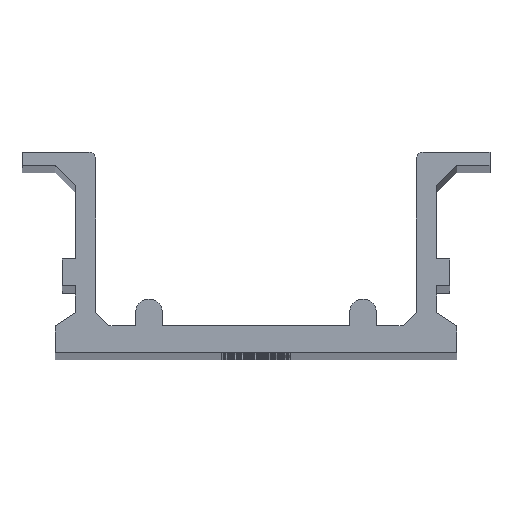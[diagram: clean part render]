
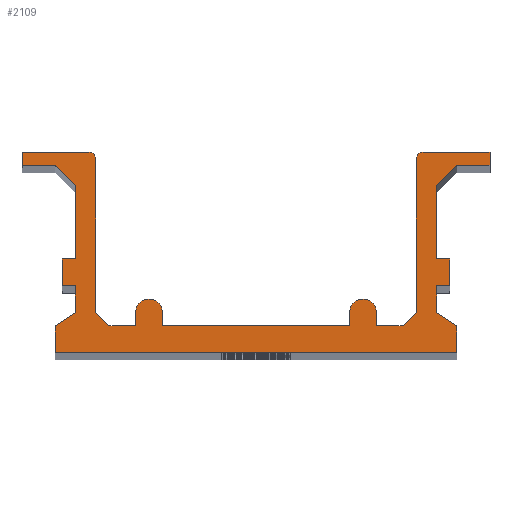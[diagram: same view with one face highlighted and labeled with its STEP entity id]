
A CAD part, top view. The second image highlights one B-rep face of the part: STEP entity #2109.
In plain terms, the highlighted planar face has unit normal (0, 0, 1).
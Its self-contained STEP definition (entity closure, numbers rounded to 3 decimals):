
#103=CIRCLE('',#2293,0.5);
#104=CIRCLE('',#2294,0.5);
#105=CIRCLE('',#2295,1.);
#106=CIRCLE('',#2296,1.);
#211=FACE_OUTER_BOUND('',#315,.T.);
#315=EDGE_LOOP('',(#1597,#1598,#1599,#1600,#1601,#1602,#1603,#1604,#1605,
#1606,#1607,#1608,#1609,#1610,#1611,#1612,#1613,#1614,#1615,#1616,#1617,
#1618,#1619,#1620,#1621,#1622,#1623,#1624,#1625,#1626,#1627,#1628,#1629,
#1630,#1631,#1632,#1633,#1634));
#507=LINE('',#3284,#741);
#508=LINE('',#3286,#742);
#509=LINE('',#3288,#743);
#510=LINE('',#3292,#744);
#511=LINE('',#3294,#745);
#512=LINE('',#3296,#746);
#513=LINE('',#3298,#747);
#514=LINE('',#3300,#748);
#515=LINE('',#3302,#749);
#516=LINE('',#3304,#750);
#517=LINE('',#3306,#751);
#518=LINE('',#3308,#752);
#519=LINE('',#3310,#753);
#520=LINE('',#3312,#754);
#521=LINE('',#3314,#755);
#522=LINE('',#3316,#756);
#523=LINE('',#3318,#757);
#524=LINE('',#3320,#758);
#525=LINE('',#3322,#759);
#526=LINE('',#3324,#760);
#527=LINE('',#3326,#761);
#528=LINE('',#3328,#762);
#529=LINE('',#3330,#763);
#530=LINE('',#3332,#764);
#531=LINE('',#3334,#765);
#532=LINE('',#3336,#766);
#533=LINE('',#3340,#767);
#534=LINE('',#3342,#768);
#535=LINE('',#3344,#769);
#536=LINE('',#3346,#770);
#537=LINE('',#3350,#771);
#538=LINE('',#3352,#772);
#539=LINE('',#3354,#773);
#540=LINE('',#3357,#774);
#741=VECTOR('',#2696,10.);
#742=VECTOR('',#2697,10.);
#743=VECTOR('',#2698,10.);
#744=VECTOR('',#2701,10.);
#745=VECTOR('',#2702,10.);
#746=VECTOR('',#2703,10.);
#747=VECTOR('',#2704,10.);
#748=VECTOR('',#2705,10.);
#749=VECTOR('',#2706,10.);
#750=VECTOR('',#2707,10.);
#751=VECTOR('',#2708,10.);
#752=VECTOR('',#2709,10.);
#753=VECTOR('',#2710,10.);
#754=VECTOR('',#2711,10.);
#755=VECTOR('',#2712,10.);
#756=VECTOR('',#2713,10.);
#757=VECTOR('',#2714,10.);
#758=VECTOR('',#2715,10.);
#759=VECTOR('',#2716,10.);
#760=VECTOR('',#2717,10.);
#761=VECTOR('',#2718,10.);
#762=VECTOR('',#2719,10.);
#763=VECTOR('',#2720,10.);
#764=VECTOR('',#2721,10.);
#765=VECTOR('',#2722,10.);
#766=VECTOR('',#2723,10.);
#767=VECTOR('',#2726,10.);
#768=VECTOR('',#2727,10.);
#769=VECTOR('',#2728,10.);
#770=VECTOR('',#2729,10.);
#771=VECTOR('',#2732,10.);
#772=VECTOR('',#2733,10.);
#773=VECTOR('',#2734,10.);
#774=VECTOR('',#2737,10.);
#975=VERTEX_POINT('',#3282);
#976=VERTEX_POINT('',#3283);
#977=VERTEX_POINT('',#3285);
#978=VERTEX_POINT('',#3287);
#979=VERTEX_POINT('',#3289);
#980=VERTEX_POINT('',#3291);
#981=VERTEX_POINT('',#3293);
#982=VERTEX_POINT('',#3295);
#983=VERTEX_POINT('',#3297);
#984=VERTEX_POINT('',#3299);
#985=VERTEX_POINT('',#3301);
#986=VERTEX_POINT('',#3303);
#987=VERTEX_POINT('',#3305);
#988=VERTEX_POINT('',#3307);
#989=VERTEX_POINT('',#3309);
#990=VERTEX_POINT('',#3311);
#991=VERTEX_POINT('',#3313);
#992=VERTEX_POINT('',#3315);
#993=VERTEX_POINT('',#3317);
#994=VERTEX_POINT('',#3319);
#995=VERTEX_POINT('',#3321);
#996=VERTEX_POINT('',#3323);
#997=VERTEX_POINT('',#3325);
#998=VERTEX_POINT('',#3327);
#999=VERTEX_POINT('',#3329);
#1000=VERTEX_POINT('',#3331);
#1001=VERTEX_POINT('',#3333);
#1002=VERTEX_POINT('',#3335);
#1003=VERTEX_POINT('',#3337);
#1004=VERTEX_POINT('',#3339);
#1005=VERTEX_POINT('',#3341);
#1006=VERTEX_POINT('',#3343);
#1007=VERTEX_POINT('',#3345);
#1008=VERTEX_POINT('',#3347);
#1009=VERTEX_POINT('',#3349);
#1010=VERTEX_POINT('',#3351);
#1011=VERTEX_POINT('',#3353);
#1012=VERTEX_POINT('',#3355);
#1235=EDGE_CURVE('',#975,#976,#507,.T.);
#1236=EDGE_CURVE('',#976,#977,#508,.T.);
#1237=EDGE_CURVE('',#977,#978,#509,.T.);
#1238=EDGE_CURVE('',#978,#979,#103,.T.);
#1239=EDGE_CURVE('',#979,#980,#510,.T.);
#1240=EDGE_CURVE('',#980,#981,#511,.T.);
#1241=EDGE_CURVE('',#981,#982,#512,.T.);
#1242=EDGE_CURVE('',#982,#983,#513,.T.);
#1243=EDGE_CURVE('',#983,#984,#514,.T.);
#1244=EDGE_CURVE('',#984,#985,#515,.T.);
#1245=EDGE_CURVE('',#985,#986,#516,.T.);
#1246=EDGE_CURVE('',#986,#987,#517,.T.);
#1247=EDGE_CURVE('',#987,#988,#518,.T.);
#1248=EDGE_CURVE('',#988,#989,#519,.T.);
#1249=EDGE_CURVE('',#989,#990,#520,.T.);
#1250=EDGE_CURVE('',#990,#991,#521,.T.);
#1251=EDGE_CURVE('',#991,#992,#522,.T.);
#1252=EDGE_CURVE('',#992,#993,#523,.T.);
#1253=EDGE_CURVE('',#993,#994,#524,.T.);
#1254=EDGE_CURVE('',#994,#995,#525,.T.);
#1255=EDGE_CURVE('',#995,#996,#526,.T.);
#1256=EDGE_CURVE('',#996,#997,#527,.T.);
#1257=EDGE_CURVE('',#997,#998,#528,.T.);
#1258=EDGE_CURVE('',#998,#999,#529,.T.);
#1259=EDGE_CURVE('',#999,#1000,#530,.T.);
#1260=EDGE_CURVE('',#1000,#1001,#531,.T.);
#1261=EDGE_CURVE('',#1001,#1002,#532,.T.);
#1262=EDGE_CURVE('',#1002,#1003,#104,.T.);
#1263=EDGE_CURVE('',#1003,#1004,#533,.T.);
#1264=EDGE_CURVE('',#1004,#1005,#534,.T.);
#1265=EDGE_CURVE('',#1005,#1006,#535,.T.);
#1266=EDGE_CURVE('',#1006,#1007,#536,.T.);
#1267=EDGE_CURVE('',#1007,#1008,#105,.T.);
#1268=EDGE_CURVE('',#1008,#1009,#537,.T.);
#1269=EDGE_CURVE('',#1009,#1010,#538,.T.);
#1270=EDGE_CURVE('',#1010,#1011,#539,.T.);
#1271=EDGE_CURVE('',#1011,#1012,#106,.T.);
#1272=EDGE_CURVE('',#1012,#975,#540,.T.);
#1597=ORIENTED_EDGE('',*,*,#1235,.T.);
#1598=ORIENTED_EDGE('',*,*,#1236,.T.);
#1599=ORIENTED_EDGE('',*,*,#1237,.T.);
#1600=ORIENTED_EDGE('',*,*,#1238,.T.);
#1601=ORIENTED_EDGE('',*,*,#1239,.T.);
#1602=ORIENTED_EDGE('',*,*,#1240,.T.);
#1603=ORIENTED_EDGE('',*,*,#1241,.T.);
#1604=ORIENTED_EDGE('',*,*,#1242,.T.);
#1605=ORIENTED_EDGE('',*,*,#1243,.T.);
#1606=ORIENTED_EDGE('',*,*,#1244,.T.);
#1607=ORIENTED_EDGE('',*,*,#1245,.T.);
#1608=ORIENTED_EDGE('',*,*,#1246,.T.);
#1609=ORIENTED_EDGE('',*,*,#1247,.T.);
#1610=ORIENTED_EDGE('',*,*,#1248,.T.);
#1611=ORIENTED_EDGE('',*,*,#1249,.T.);
#1612=ORIENTED_EDGE('',*,*,#1250,.T.);
#1613=ORIENTED_EDGE('',*,*,#1251,.T.);
#1614=ORIENTED_EDGE('',*,*,#1252,.T.);
#1615=ORIENTED_EDGE('',*,*,#1253,.T.);
#1616=ORIENTED_EDGE('',*,*,#1254,.T.);
#1617=ORIENTED_EDGE('',*,*,#1255,.T.);
#1618=ORIENTED_EDGE('',*,*,#1256,.T.);
#1619=ORIENTED_EDGE('',*,*,#1257,.T.);
#1620=ORIENTED_EDGE('',*,*,#1258,.T.);
#1621=ORIENTED_EDGE('',*,*,#1259,.T.);
#1622=ORIENTED_EDGE('',*,*,#1260,.T.);
#1623=ORIENTED_EDGE('',*,*,#1261,.T.);
#1624=ORIENTED_EDGE('',*,*,#1262,.T.);
#1625=ORIENTED_EDGE('',*,*,#1263,.T.);
#1626=ORIENTED_EDGE('',*,*,#1264,.T.);
#1627=ORIENTED_EDGE('',*,*,#1265,.T.);
#1628=ORIENTED_EDGE('',*,*,#1266,.T.);
#1629=ORIENTED_EDGE('',*,*,#1267,.T.);
#1630=ORIENTED_EDGE('',*,*,#1268,.T.);
#1631=ORIENTED_EDGE('',*,*,#1269,.T.);
#1632=ORIENTED_EDGE('',*,*,#1270,.T.);
#1633=ORIENTED_EDGE('',*,*,#1271,.T.);
#1634=ORIENTED_EDGE('',*,*,#1272,.T.);
#2013=PLANE('',#2292);
#2109=ADVANCED_FACE('',(#211),#2013,.T.);
#2292=AXIS2_PLACEMENT_3D('',#3281,#2694,#2695);
#2293=AXIS2_PLACEMENT_3D('',#3290,#2699,#2700);
#2294=AXIS2_PLACEMENT_3D('',#3338,#2724,#2725);
#2295=AXIS2_PLACEMENT_3D('',#3348,#2730,#2731);
#2296=AXIS2_PLACEMENT_3D('',#3356,#2735,#2736);
#2694=DIRECTION('center_axis',(0.,0.,1.));
#2695=DIRECTION('ref_axis',(1.,0.,0.));
#2696=DIRECTION('',(-1.,0.,0.));
#2697=DIRECTION('',(-0.707,0.707,0.));
#2698=DIRECTION('',(0.,1.,0.));
#2699=DIRECTION('center_axis',(0.,0.,1.));
#2700=DIRECTION('ref_axis',(1.,0.,0.));
#2701=DIRECTION('',(-1.,0.,0.));
#2702=DIRECTION('',(0.,-1.,0.));
#2703=DIRECTION('',(1.,0.,0.));
#2704=DIRECTION('',(0.707,-0.707,0.));
#2705=DIRECTION('',(0.,-1.,0.));
#2706=DIRECTION('',(-1.,0.,0.));
#2707=DIRECTION('',(0.,-1.,0.));
#2708=DIRECTION('',(1.,0.,0.));
#2709=DIRECTION('',(0.,-1.,0.));
#2710=DIRECTION('',(-0.832,-0.555,0.));
#2711=DIRECTION('',(0.,-1.,0.));
#2712=DIRECTION('',(1.,0.,0.));
#2713=DIRECTION('',(0.,1.,0.));
#2714=DIRECTION('',(-0.832,0.555,0.));
#2715=DIRECTION('',(0.,1.,0.));
#2716=DIRECTION('',(1.,0.,0.));
#2717=DIRECTION('',(0.,1.,0.));
#2718=DIRECTION('',(-1.,0.,0.));
#2719=DIRECTION('',(0.,1.,0.));
#2720=DIRECTION('',(0.707,0.707,0.));
#2721=DIRECTION('',(1.,0.,0.));
#2722=DIRECTION('',(0.,1.,0.));
#2723=DIRECTION('',(-1.,0.,0.));
#2724=DIRECTION('center_axis',(0.,0.,1.));
#2725=DIRECTION('ref_axis',(0.,1.,0.));
#2726=DIRECTION('',(0.,-1.,0.));
#2727=DIRECTION('',(-0.707,-0.707,0.));
#2728=DIRECTION('',(-1.,0.,0.));
#2729=DIRECTION('',(0.,1.,0.));
#2730=DIRECTION('center_axis',(0.,0.,1.));
#2731=DIRECTION('ref_axis',(1.,0.,0.));
#2732=DIRECTION('',(0.,-1.,0.));
#2733=DIRECTION('',(-1.,0.,0.));
#2734=DIRECTION('',(0.,1.,0.));
#2735=DIRECTION('center_axis',(0.,0.,1.));
#2736=DIRECTION('ref_axis',(1.,0.,0.));
#2737=DIRECTION('',(0.,-1.,0.));
#3281=CARTESIAN_POINT('Origin',(0.,7.5,317.));
#3282=CARTESIAN_POINT('',(-9.,2.,317.));
#3283=CARTESIAN_POINT('',(-11.,2.,317.));
#3284=CARTESIAN_POINT('',(-9.,2.,317.));
#3285=CARTESIAN_POINT('',(-12.,3.,317.));
#3286=CARTESIAN_POINT('',(-11.,2.,317.));
#3287=CARTESIAN_POINT('',(-12.,14.5,317.));
#3288=CARTESIAN_POINT('',(-12.,3.,317.));
#3289=CARTESIAN_POINT('',(-12.5,15.,317.));
#3290=CARTESIAN_POINT('Origin',(-12.5,14.5,317.));
#3291=CARTESIAN_POINT('',(-17.5,15.,317.));
#3292=CARTESIAN_POINT('',(-12.5,15.,317.));
#3293=CARTESIAN_POINT('',(-17.5,14.,317.));
#3294=CARTESIAN_POINT('',(-17.5,15.,317.));
#3295=CARTESIAN_POINT('',(-15.,14.,317.));
#3296=CARTESIAN_POINT('',(-17.5,14.,317.));
#3297=CARTESIAN_POINT('',(-13.5,12.5,317.));
#3298=CARTESIAN_POINT('',(-15.,14.,317.));
#3299=CARTESIAN_POINT('',(-13.5,7.,317.));
#3300=CARTESIAN_POINT('',(-13.5,12.5,317.));
#3301=CARTESIAN_POINT('',(-14.5,7.,317.));
#3302=CARTESIAN_POINT('',(-13.5,7.,317.));
#3303=CARTESIAN_POINT('',(-14.5,5.,317.));
#3304=CARTESIAN_POINT('',(-14.5,7.,317.));
#3305=CARTESIAN_POINT('',(-13.5,5.,317.));
#3306=CARTESIAN_POINT('',(-14.5,5.,317.));
#3307=CARTESIAN_POINT('',(-13.5,3.,317.));
#3308=CARTESIAN_POINT('',(-13.5,5.,317.));
#3309=CARTESIAN_POINT('',(-15.,2.,317.));
#3310=CARTESIAN_POINT('',(-13.5,3.,317.));
#3311=CARTESIAN_POINT('',(-15.,0.,317.));
#3312=CARTESIAN_POINT('',(-15.,2.,317.));
#3313=CARTESIAN_POINT('',(15.,0.,317.));
#3314=CARTESIAN_POINT('',(-15.,0.,317.));
#3315=CARTESIAN_POINT('',(15.,2.,317.));
#3316=CARTESIAN_POINT('',(15.,0.,317.));
#3317=CARTESIAN_POINT('',(13.5,3.,317.));
#3318=CARTESIAN_POINT('',(15.,2.,317.));
#3319=CARTESIAN_POINT('',(13.5,5.,317.));
#3320=CARTESIAN_POINT('',(13.5,3.,317.));
#3321=CARTESIAN_POINT('',(14.5,5.,317.));
#3322=CARTESIAN_POINT('',(13.5,5.,317.));
#3323=CARTESIAN_POINT('',(14.5,7.,317.));
#3324=CARTESIAN_POINT('',(14.5,5.,317.));
#3325=CARTESIAN_POINT('',(13.5,7.,317.));
#3326=CARTESIAN_POINT('',(14.5,7.,317.));
#3327=CARTESIAN_POINT('',(13.5,12.5,317.));
#3328=CARTESIAN_POINT('',(13.5,7.,317.));
#3329=CARTESIAN_POINT('',(15.,14.,317.));
#3330=CARTESIAN_POINT('',(13.5,12.5,317.));
#3331=CARTESIAN_POINT('',(17.5,14.,317.));
#3332=CARTESIAN_POINT('',(15.,14.,317.));
#3333=CARTESIAN_POINT('',(17.5,15.,317.));
#3334=CARTESIAN_POINT('',(17.5,14.,317.));
#3335=CARTESIAN_POINT('',(12.5,15.,317.));
#3336=CARTESIAN_POINT('',(17.5,15.,317.));
#3337=CARTESIAN_POINT('',(12.,14.5,317.));
#3338=CARTESIAN_POINT('Origin',(12.5,14.5,317.));
#3339=CARTESIAN_POINT('',(12.,3.,317.));
#3340=CARTESIAN_POINT('',(12.,14.5,317.));
#3341=CARTESIAN_POINT('',(11.,2.,317.));
#3342=CARTESIAN_POINT('',(12.,3.,317.));
#3343=CARTESIAN_POINT('',(9.,2.,317.));
#3344=CARTESIAN_POINT('',(11.,2.,317.));
#3345=CARTESIAN_POINT('',(9.,3.,317.));
#3346=CARTESIAN_POINT('',(9.,2.,317.));
#3347=CARTESIAN_POINT('',(7.,3.,317.));
#3348=CARTESIAN_POINT('Origin',(8.,3.,317.));
#3349=CARTESIAN_POINT('',(7.,2.,317.));
#3350=CARTESIAN_POINT('',(7.,3.,317.));
#3351=CARTESIAN_POINT('',(-7.,2.,317.));
#3352=CARTESIAN_POINT('',(7.,2.,317.));
#3353=CARTESIAN_POINT('',(-7.,3.,317.));
#3354=CARTESIAN_POINT('',(-7.,2.,317.));
#3355=CARTESIAN_POINT('',(-9.,3.,317.));
#3356=CARTESIAN_POINT('Origin',(-8.,3.,317.));
#3357=CARTESIAN_POINT('',(-9.,3.,317.));
